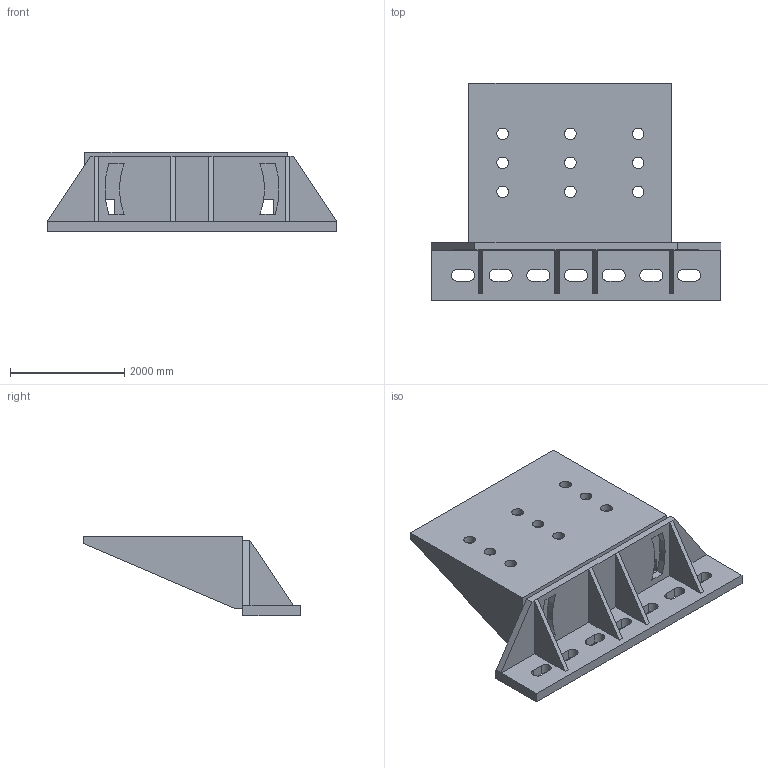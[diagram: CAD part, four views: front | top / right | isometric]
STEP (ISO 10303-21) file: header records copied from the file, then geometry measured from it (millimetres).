
FILE_DESCRIPTION(/* description */ (''),/* implementation_level */ '2;1');
FILE_NAME(/* name */ 'Haltesatz_fr_MAGMA_LM4993.step',/* time_stamp */ '2023-05-05T14:19:00+02:00',/* author */ (''),/* organization */ (''),/* preprocessor_version */ 'ST-DEVELOPER v19.2',/* originating_system */ 'Autodesk Translation Framework v12.4.0.73',/* authorisation */ '');
FILE_SCHEMA (('AUTOMOTIVE_DESIGN { 1 0 10303 214 3 1 1 }'));
Length unit declared in the file: millimetre
Products named in the file (1): _uchwyt do belki.6f2dcece-0bd6-4d2d-86d1-71731195f580
Bounding box: 5080 x 3810 x 1391.92 mm (x, y, z)
Volume: 4024237591.2 mm3; surface area: 67551061.2 mm2
Topology: 2 solids, 2 shells, 101 faces, 269 edges, 172 vertices
Faces by surface type: plane 74, cylinder 27
Full cylindrical faces by diameter (mm): 203.2 x9
Entity records: 3220 total; most frequent: CARTESIAN_POINT 543, ORIENTED_EDGE 538, DIRECTION 527, EDGE_CURVE 269, LINE 215, VECTOR 215, VERTEX_POINT 172, AXIS2_PLACEMENT_3D 156
